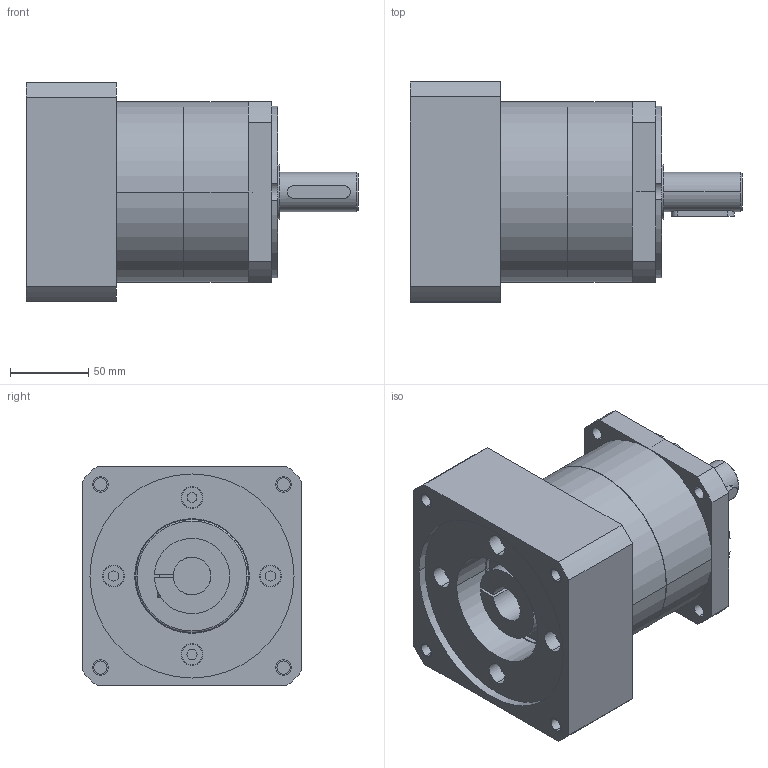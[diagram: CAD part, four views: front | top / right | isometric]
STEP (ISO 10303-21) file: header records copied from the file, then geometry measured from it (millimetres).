
FILE_DESCRIPTION((''),'2;1');
FILE_NAME('MB_PLE_MASTER','2020-02-25T',('agw'),(''),'CREO PARAMETRIC BY PTC INC, 2015290','CREO PARAMETRIC BY PTC INC, 2015290','');
FILE_SCHEMA(('AUTOMOTIVE_DESIGN { 1 0 10303 214 1 1 1 1 }'));
Length unit declared in the file: millimetre
Products named in the file (1): MB_PLE_MASTER
Bounding box: 211.5 x 140 x 140 mm (x, y, z)
Volume: 2049565.4 mm3; surface area: 150720.4 mm2
Topology: 1 solids, 6 shells, 246 faces, 584 edges, 381 vertices
Faces by surface type: plane 127, cylinder 107, cone 6, torus 6
Entity records: 7818 total; most frequent: DIRECTION 1310, CARTESIAN_POINT 1279, ORIENTED_EDGE 1144, EDGE_CURVE 582, AXIS2_PLACEMENT_3D 485, VERTEX_POINT 381, VECTOR 340, LINE 340
